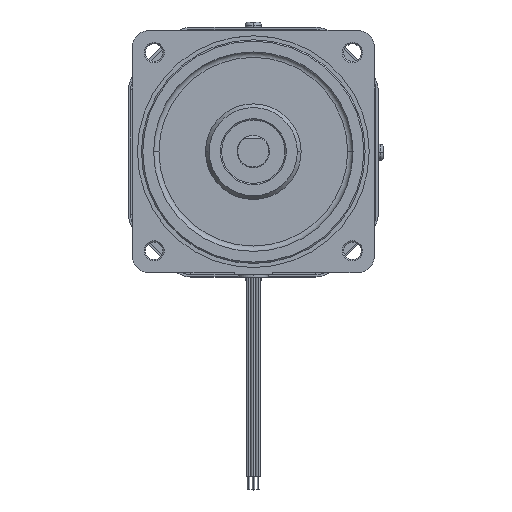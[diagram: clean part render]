
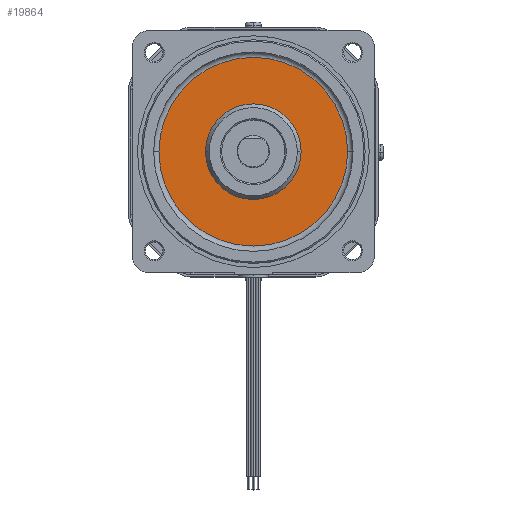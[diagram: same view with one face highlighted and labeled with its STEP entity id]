
A CAD part, top view. The second image highlights one B-rep face of the part: STEP entity #19864.
In plain terms, the highlighted planar face has unit normal (0, 0, 1).
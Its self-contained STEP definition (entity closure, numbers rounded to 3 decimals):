
#2586 = CARTESIAN_POINT ( 'NONE',  ( 35., 0., 0. ) ) ;
#2611 = CARTESIAN_POINT ( 'NONE',  ( 17.75, 0., 0. ) ) ;
#2628 = CARTESIAN_POINT ( 'NONE',  ( -35., 0., 0. ) ) ;
#2630 = DIRECTION ( 'NONE',  ( -1., 0., 0. ) ) ;
#2631 = DIRECTION ( 'NONE',  ( 0., 0., 1. ) ) ;
#2632 = CARTESIAN_POINT ( 'NONE',  ( 0., 0., 0. ) ) ;
#2633 = AXIS2_PLACEMENT_3D ( 'NONE', #2632, #2631, #2630 ) ;
#2634 = CIRCLE ( 'NONE', #2633, 35. ) ;
#13959 = CARTESIAN_POINT ( 'NONE',  ( -17.75, 0., 0. ) ) ;
#13960 = DIRECTION ( 'NONE',  ( -1., 0., 0. ) ) ;
#13961 = DIRECTION ( 'NONE',  ( 0., 0., 1. ) ) ;
#13962 = CARTESIAN_POINT ( 'NONE',  ( 0., 0., 0. ) ) ;
#13963 = AXIS2_PLACEMENT_3D ( 'NONE', #13962, #13961, #13960 ) ;
#13964 = CIRCLE ( 'NONE', #13963, 17.75 ) ;
#17666 = VERTEX_POINT ( 'NONE', #2586 ) ;
#17698 = VERTEX_POINT ( 'NONE', #2611 ) ;
#17726 = EDGE_CURVE ( 'NONE', #17729, #17666, #2634, .T. ) ;
#17729 = VERTEX_POINT ( 'NONE', #2628 ) ;
#19864 = ADVANCED_FACE ( 'NONE', ( #51081, #51078 ), #51146, .F. ) ;
#19866 = EDGE_LOOP ( 'NONE', ( #19869, #20025 ) ) ;
#19869 = ORIENTED_EDGE ( 'NONE', *, *, #17726, .T. ) ;
#20025 = ORIENTED_EDGE ( 'NONE', *, *, #20026, .T. ) ;
#20026 = EDGE_CURVE ( 'NONE', #17666, #17729, #51635, .T. ) ;
#20027 = EDGE_LOOP ( 'NONE', ( #20116, #20637 ) ) ;
#20116 = ORIENTED_EDGE ( 'NONE', *, *, #20117, .F. ) ;
#20117 = EDGE_CURVE ( 'NONE', #35219, #17698, #22004, .T. ) ;
#20637 = ORIENTED_EDGE ( 'NONE', *, *, #35218, .F. ) ;
#22001 = DIRECTION ( 'NONE',  ( -1., 0., 0. ) ) ;
#22002 = DIRECTION ( 'NONE',  ( 0., 0., 1. ) ) ;
#22003 = AXIS2_PLACEMENT_3D ( 'NONE', #22013, #22002, #22001 ) ;
#22004 = CIRCLE ( 'NONE', #22003, 17.75 ) ;
#22013 = CARTESIAN_POINT ( 'NONE',  ( 0., 0., 0. ) ) ;
#35218 = EDGE_CURVE ( 'NONE', #17698, #35219, #13964, .T. ) ;
#35219 = VERTEX_POINT ( 'NONE', #13959 ) ;
#51078 = FACE_BOUND ( 'NONE', #20027, .T. ) ;
#51081 = FACE_OUTER_BOUND ( 'NONE', #19866, .T. ) ;
#51139 = DIRECTION ( 'NONE',  ( -1., 0., 0. ) ) ;
#51141 = DIRECTION ( 'NONE',  ( 0., 0., -1. ) ) ;
#51143 = CARTESIAN_POINT ( 'NONE',  ( -38.5, 38.5, 0. ) ) ;
#51145 = AXIS2_PLACEMENT_3D ( 'NONE', #51143, #51141, #51139 ) ;
#51146 = PLANE ( 'NONE',  #51145 ) ;
#51631 = DIRECTION ( 'NONE',  ( -1., 0., 0. ) ) ;
#51632 = DIRECTION ( 'NONE',  ( 0., 0., 1. ) ) ;
#51633 = CARTESIAN_POINT ( 'NONE',  ( 0., 0., 0. ) ) ;
#51634 = AXIS2_PLACEMENT_3D ( 'NONE', #51633, #51632, #51631 ) ;
#51635 = CIRCLE ( 'NONE', #51634, 35. ) ;
